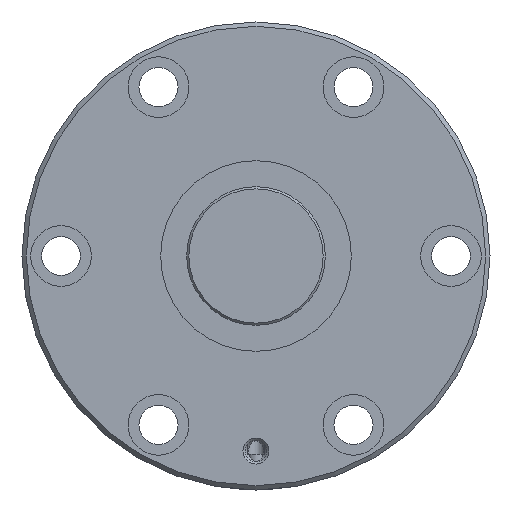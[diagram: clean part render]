
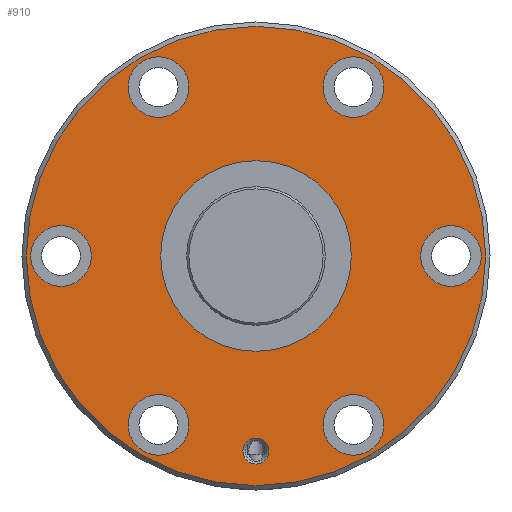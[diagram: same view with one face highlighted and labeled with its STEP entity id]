
A CAD part, left-side view. The second image highlights one B-rep face of the part: STEP entity #910.
In plain terms, the highlighted planar face has unit normal (-1, 0, 0).
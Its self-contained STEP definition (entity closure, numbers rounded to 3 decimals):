
#93=PLANE('',#1019);
#149=ORIENTED_EDGE('',*,*,#341,.T.);
#150=ORIENTED_EDGE('',*,*,#342,.T.);
#151=ORIENTED_EDGE('',*,*,#343,.T.);
#152=ORIENTED_EDGE('',*,*,#344,.T.);
#153=ORIENTED_EDGE('',*,*,#345,.T.);
#154=ORIENTED_EDGE('',*,*,#346,.T.);
#155=ORIENTED_EDGE('',*,*,#347,.T.);
#156=ORIENTED_EDGE('',*,*,#348,.T.);
#157=ORIENTED_EDGE('',*,*,#340,.F.);
#340=EDGE_CURVE('',#441,#441,#525,.T.);
#341=EDGE_CURVE('',#442,#442,#526,.T.);
#342=EDGE_CURVE('',#443,#443,#527,.F.);
#343=EDGE_CURVE('',#444,#444,#528,.T.);
#344=EDGE_CURVE('',#445,#445,#529,.T.);
#345=EDGE_CURVE('',#446,#446,#530,.T.);
#346=EDGE_CURVE('',#447,#447,#531,.T.);
#347=EDGE_CURVE('',#448,#448,#532,.T.);
#348=EDGE_CURVE('',#449,#449,#533,.T.);
#441=VERTEX_POINT('',#1526);
#442=VERTEX_POINT('',#1529);
#443=VERTEX_POINT('',#1531);
#444=VERTEX_POINT('',#1533);
#445=VERTEX_POINT('',#1535);
#446=VERTEX_POINT('',#1537);
#447=VERTEX_POINT('',#1539);
#448=VERTEX_POINT('',#1541);
#449=VERTEX_POINT('',#1543);
#525=CIRCLE('',#1018,53.);
#526=CIRCLE('',#1020,22.);
#527=CIRCLE('',#1021,7.);
#528=CIRCLE('',#1022,3.);
#529=CIRCLE('',#1023,7.);
#530=CIRCLE('',#1024,7.);
#531=CIRCLE('',#1025,7.);
#532=CIRCLE('',#1026,7.);
#533=CIRCLE('',#1027,7.);
#607=EDGE_LOOP('',(#149));
#608=EDGE_LOOP('',(#150));
#609=EDGE_LOOP('',(#151));
#610=EDGE_LOOP('',(#152));
#611=EDGE_LOOP('',(#153));
#612=EDGE_LOOP('',(#154));
#613=EDGE_LOOP('',(#155));
#614=EDGE_LOOP('',(#156));
#615=EDGE_LOOP('',(#157));
#749=FACE_BOUND('',#607,.T.);
#750=FACE_BOUND('',#608,.T.);
#751=FACE_BOUND('',#609,.T.);
#752=FACE_BOUND('',#610,.T.);
#753=FACE_BOUND('',#611,.T.);
#754=FACE_BOUND('',#612,.T.);
#755=FACE_BOUND('',#613,.T.);
#756=FACE_BOUND('',#614,.T.);
#757=FACE_BOUND('',#615,.T.);
#910=ADVANCED_FACE('',(#749,#750,#751,#752,#753,#754,#755,#756,#757),#93,
 .T.);
#1018=AXIS2_PLACEMENT_3D('',#1525,#1190,#1191);
#1019=AXIS2_PLACEMENT_3D('',#1527,#1192,#1193);
#1020=AXIS2_PLACEMENT_3D('',#1528,#1194,#1195);
#1021=AXIS2_PLACEMENT_3D('',#1530,#1196,#1197);
#1022=AXIS2_PLACEMENT_3D('',#1532,#1198,#1199);
#1023=AXIS2_PLACEMENT_3D('',#1534,#1200,#1201);
#1024=AXIS2_PLACEMENT_3D('',#1536,#1202,#1203);
#1025=AXIS2_PLACEMENT_3D('',#1538,#1204,#1205);
#1026=AXIS2_PLACEMENT_3D('',#1540,#1206,#1207);
#1027=AXIS2_PLACEMENT_3D('',#1542,#1208,#1209);
#1190=DIRECTION('',(1.,0.,0.));
#1191=DIRECTION('',(0.,0.,-1.));
#1192=DIRECTION('',(-1.,0.,0.));
#1193=DIRECTION('',(0.,0.,1.));
#1194=DIRECTION('',(1.,0.,0.));
#1195=DIRECTION('',(0.,0.,-1.));
#1196=DIRECTION('',(-1.,0.,0.));
#1197=DIRECTION('',(0.,0.,1.));
#1198=DIRECTION('',(1.,0.,0.));
#1199=DIRECTION('',(0.,0.,-1.));
#1200=DIRECTION('',(1.,0.,0.));
#1201=DIRECTION('',(0.,0.,-1.));
#1202=DIRECTION('',(1.,0.,0.));
#1203=DIRECTION('',(0.,0.,-1.));
#1204=DIRECTION('',(1.,0.,0.));
#1205=DIRECTION('',(0.,0.,-1.));
#1206=DIRECTION('',(1.,0.,0.));
#1207=DIRECTION('',(0.,0.,-1.));
#1208=DIRECTION('',(1.,0.,0.));
#1209=DIRECTION('',(0.,0.,-1.));
#1525=CARTESIAN_POINT('',(0.,0.,0.));
#1526=CARTESIAN_POINT('',(0.,0.,-53.));
#1527=CARTESIAN_POINT('',(0.,53.,0.));
#1528=CARTESIAN_POINT('',(0.,0.,0.));
#1529=CARTESIAN_POINT('',(0.,0.,-22.));
#1530=CARTESIAN_POINT('',(0.,45.,0.));
#1531=CARTESIAN_POINT('',(0.,45.,7.));
#1532=CARTESIAN_POINT('',(0.,0.,-45.));
#1533=CARTESIAN_POINT('',(0.,0.,-48.));
#1534=CARTESIAN_POINT('',(0.,-45.,0.));
#1535=CARTESIAN_POINT('',(0.,-45.,-7.));
#1536=CARTESIAN_POINT('',(0.,22.5,38.971));
#1537=CARTESIAN_POINT('',(0.,22.5,31.971));
#1538=CARTESIAN_POINT('',(0.,-22.5,-38.971));
#1539=CARTESIAN_POINT('',(0.,-22.5,-45.971));
#1540=CARTESIAN_POINT('',(0.,-22.5,38.971));
#1541=CARTESIAN_POINT('',(0.,-22.5,31.971));
#1542=CARTESIAN_POINT('',(0.,22.5,-38.971));
#1543=CARTESIAN_POINT('',(0.,22.5,-45.971));
